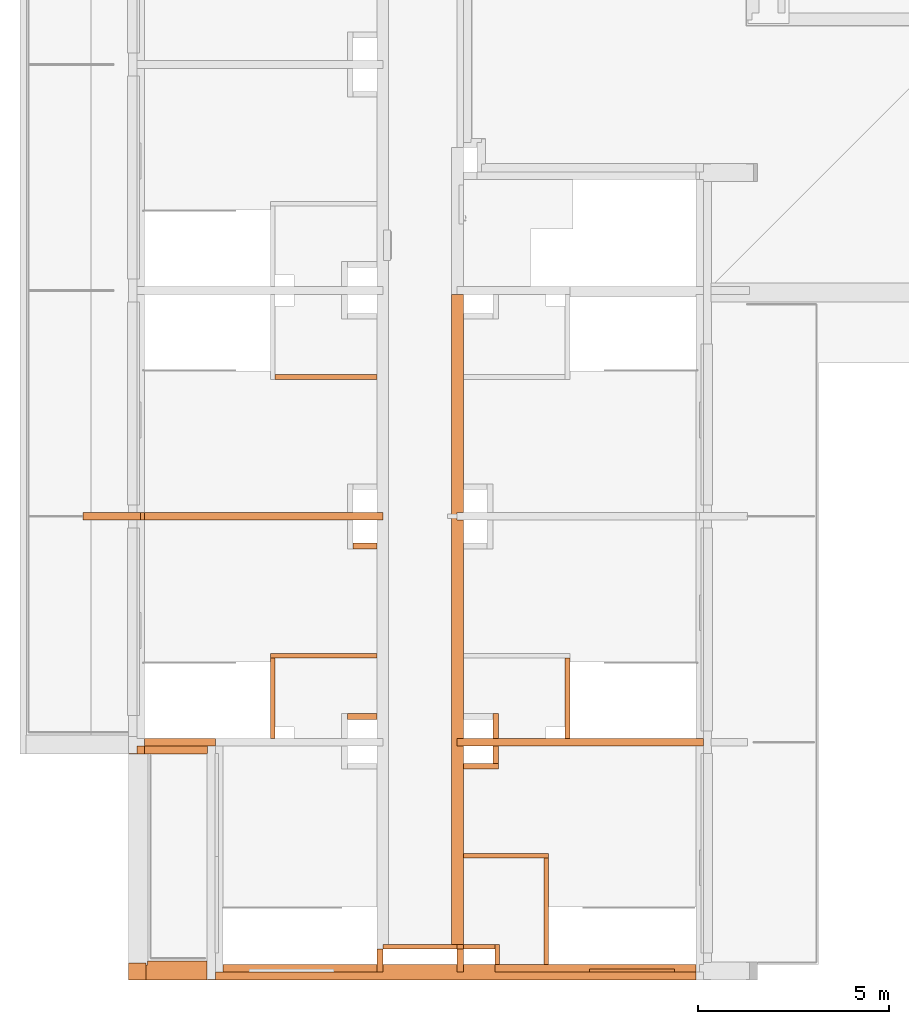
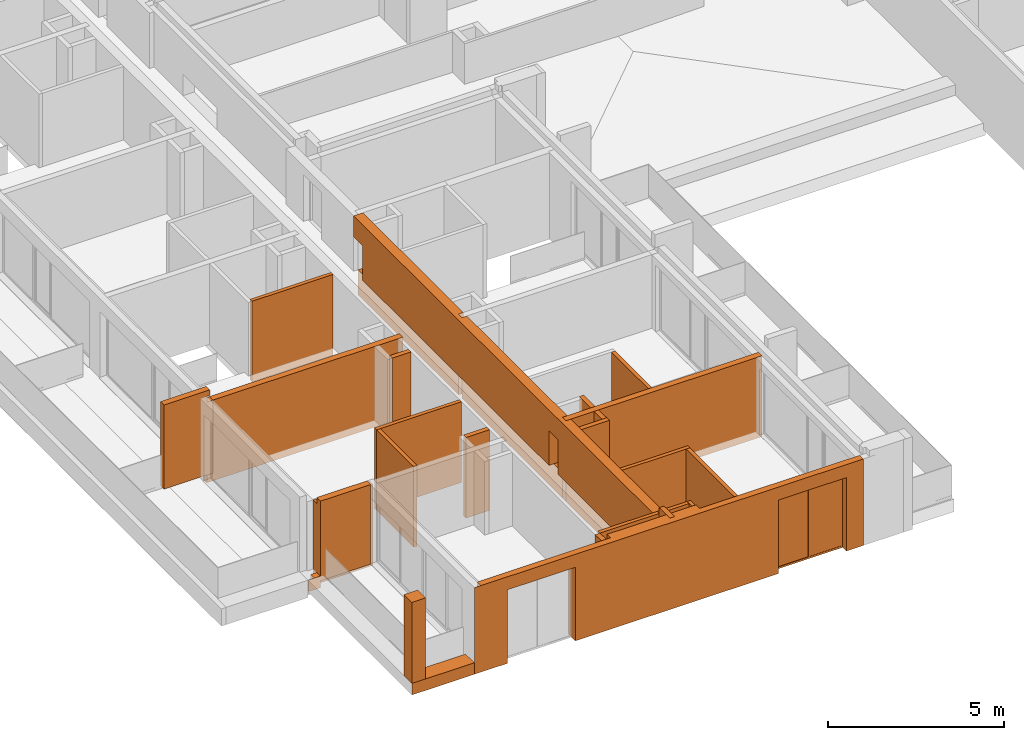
# One storey, part 14 of 30: 24 proxies, 4 openings.
"""IFC2X3 building model written with IfcOpenShell, lengths in millimetres."""

from ifc_helpers import new_model, entity, si_unit, converted_unit, derived_unit, money_unit, direction, frame, origin_with_axes, origin_2d_with_axis, place, context, subcontext, project, spatial, rectangle, extrude, faceted_brep, material, material_list, type_object, element, fill, save


model = new_model("IFC2X3")

# Units and contexts
model_context = context("Model", 3, precision=0.01, world=origin_with_axes(), true_north=direction((0.34421633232, 0.938890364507)))
body_context = subcontext(model_context, "Body", "Model", "MODEL_VIEW")
ifc_project = project(units=[si_unit("LENGTHUNIT", "METRE", prefix="MILLI"), si_unit("AREAUNIT", "SQUARE_METRE"), si_unit("VOLUMEUNIT", "CUBIC_METRE"), converted_unit("PLANEANGLEUNIT", "DEGREE", entity("IfcPlaneAngleMeasure", 0.0174532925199), si_unit("PLANEANGLEUNIT", "RADIAN"), dimensions=[0, 0, 0, 0, 0, 0, 0]), si_unit("SOLIDANGLEUNIT", "STERADIAN"), money_unit("USD"), converted_unit("TIMEUNIT", "Year", entity("IfcTimeMeasure", 31556926.0), si_unit("TIMEUNIT", "SECOND"), dimensions=[0, 0, 1, 0, 0, 0, 0]), si_unit("MASSUNIT", "GRAM", prefix="KILO"), si_unit("THERMODYNAMICTEMPERATUREUNIT", "DEGREE_CELSIUS"), si_unit("LUMINOUSINTENSITYUNIT", "LUMEN"), si_unit("ENERGYUNIT", "JOULE", prefix="MEGA"), derived_unit("THERMALCONDUCTANCEUNIT", [(si_unit("POWERUNIT", "WATT"), 1), (si_unit("LENGTHUNIT", "METRE"), -1), (si_unit("THERMODYNAMICTEMPERATUREUNIT", "KELVIN"), -1)]), derived_unit("SPECIFICHEATCAPACITYUNIT", [(si_unit("ENERGYUNIT", "JOULE"), 1), (si_unit("MASSUNIT", "GRAM", prefix="KILO"), -1), (si_unit("THERMODYNAMICTEMPERATUREUNIT", "KELVIN"), -1)]), derived_unit("MASSDENSITYUNIT", [(si_unit("MASSUNIT", "GRAM", prefix="KILO"), 1), (si_unit("VOLUMEUNIT", "CUBIC_METRE"), -1)])], contexts=[model_context])

# Site, building, storey
site_placement = place(None, origin_with_axes())
site = spatial("IfcSite", under=ifc_project, at=site_placement, Name="USTRONIE MORSKIE", CompositionType="ELEMENT")
building_placement = place(site_placement, origin_with_axes())
building = spatial("IfcBuilding", under=site, at=building_placement, Name="Budynek", CompositionType="ELEMENT")
storey_placement = place(building_placement, frame((0.0, 0.0, 16000.0), z_axis=(0.0, 0.0, 1.0), x_axis=(1.0, 0.0, 0.0)))
storey = spatial("IfcBuildingStorey", under=building, at=storey_placement, Name="ANTRESOLA - KOND. TECHNICZNA", CompositionType="ELEMENT", Elevation=16000.0)

# Proxies
ifc_material_1 = material(Name="Bloczki silikatowe")
building_element_proxy_type_1 = type_object("IfcBuildingElementProxyType", Name="Bloczki silikatowe 120", PredefinedType="NOTDEFINED")
proxy_1_placement = place(storey_placement, frame((359617.920919, 712141.199036, -159.999998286), z_axis=(0.0, 0.0, 1.0), x_axis=(1.0, 0.0, 0.0)))
element("IfcBuildingElementProxy", 1, at=proxy_1_placement, inside=storey, type_object=building_element_proxy_type_1, material=ifc_material_1, Name="SW-04", context=body_context, shape_type="Brep", body=[
    faceted_brep([(2300.0, 59.9999999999, 0.0), (2300.0, -59.9999999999, 0.0), (80.0, -59.9999999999, 0.0), (80.0, 59.9999999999, 0.0), (2300.0, 59.9999999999, 2800.0), (2300.0, -59.9999999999, 2800.0), (80.0, -59.9999999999, 2800.0), (80.0, 59.9999999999, 2800.0)], [[[0, 1, 2, 3]], [[1, 0, 4, 5]], [[1, 5, 6, 2]], [[7, 3, 2, 6]], [[4, 0, 3, 7]], [[5, 4, 7, 6]]]),
])
proxy_2_placement = place(storey_placement, frame((354717.920919, 717361.219701, -159.999998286), z_axis=(0.0, 0.0, 1.0), x_axis=(0.0, -1.0, 0.0)))
element("IfcBuildingElementProxy", 2, at=proxy_2_placement, inside=storey, type_object=building_element_proxy_type_1, material=ifc_material_1, Name="SW-04", context=body_context, shape_type="Brep", body=[
    faceted_brep([(2160.02066499, -60.0, 2800.0), (2160.02066499, 60.0, 2800.0), (59.9999999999, 60.0, 2800.0), (59.9999999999, -60.0, 2800.0), (2160.02066499, -60.0, 0.0), (2160.02066499, 60.0, 0.0), (59.9999999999, 60.0, 0.0), (59.9999999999, -60.0, 0.0)], [[[0, 1, 2, 3]], [[1, 0, 4, 5]], [[1, 5, 6, 2]], [[7, 3, 2, 6]], [[4, 0, 3, 7]], [[5, 4, 7, 6]]]),
])
proxy_3_placement = place(storey_placement, frame((362417.920919, 717361.219701, -159.999998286), z_axis=(0.0, 0.0, 1.0), x_axis=(0.0, -1.0, 0.0)))
element("IfcBuildingElementProxy", 3, at=proxy_3_placement, inside=storey, type_object=building_element_proxy_type_1, material=ifc_material_1, Name="SW-04", context=body_context, shape_type="Brep", body=[
    faceted_brep([(2160.02066499, 60.0, 0.0), (2160.02066499, -60.0, 0.0), (59.9999999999, -60.0, 0.0), (59.9999999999, 60.0, 0.0), (2160.02066499, 60.0, 2800.0), (2160.02066499, -60.0, 2800.0), (59.9999999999, -60.0, 2800.0), (59.9999999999, 60.0, 2800.0)], [[[0, 1, 2, 3]], [[1, 0, 4, 5]], [[1, 5, 6, 2]], [[7, 3, 2, 6]], [[4, 0, 3, 7]], [[5, 4, 7, 6]]]),
])
proxy_4_placement = place(storey_placement, frame((354717.920919, 724641.180542, -159.999998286), z_axis=(0.0, 0.0, 1.0), x_axis=(1.0, 0.0, 0.0)))
element("IfcBuildingElementProxy", 4, at=proxy_4_placement, inside=storey, type_object=building_element_proxy_type_1, material=ifc_material_1, Name="SW-04", context=body_context, shape_type="Brep", body=[
    faceted_brep([(2720.0, 59.9999999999, 0.0), (2720.0, -59.9999999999, 0.0), (60.0, -59.9999999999, 0.0), (60.0, 59.9999999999, 0.0), (2720.0, 59.9999999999, 2799.99999829), (2720.0, -59.9999999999, 2799.99999829), (60.0, -59.9999999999, 2799.99999829), (60.0, 59.9999999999, 2799.99999829)], [[[0, 1, 2, 3]], [[1, 0, 4, 5]], [[1, 5, 6, 2]], [[7, 3, 2, 6]], [[4, 0, 3, 7]], [[5, 4, 7, 6]]]),
])
proxy_5_placement = place(storey_placement, frame((360517.920919, 709701.199036, -160.0), z_axis=(0.0, 0.0, 1.0), x_axis=(-1.0, 0.0, 0.0)))
element("IfcBuildingElementProxy", 5, at=proxy_5_placement, inside=storey, type_object=building_element_proxy_type_1, material=ifc_material_1, Name="SW-04", context=body_context, shape_type="Brep", body=[
    faceted_brep([(2920.0, -120.0, 680.0), (980.018079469, -120.0, 680.0), (980.018079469, -120.0, 880.0), (2920.0, -120.0, 880.0), (2920.0, -120.0, 2800.0), (980.0, -120.0, 2800.0), (980.0, -120.0, 0.0), (2920.0, -120.0, 0.0), (980.018151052, 1.13686837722e-10, 680.0), (2920.0, 1.13686837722e-10, 680.0), (980.018151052, 1.13686837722e-10, 880.0), (2920.0, 1.13686837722e-10, 880.0), (2920.0, 1.13686837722e-10, 2800.0), (980.0, 0.0, 2800.0), (980.0, 0.0, 0.0), (2920.0, 1.13686837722e-10, 0.0)], [[[0, 1, 2, 3, 4, 5, 6, 7]], [[8, 1, 0, 9]], [[10, 2, 1, 8]], [[11, 3, 2, 10]], [[4, 3, 11, 12]], [[4, 12, 13, 5]], [[14, 6, 5, 13]], [[15, 7, 6, 14]], [[15, 9, 0, 7]], [[10, 8, 9, 15, 14, 13, 12, 11]]]),
    faceted_brep([(820.0, -120.0, 0.0), (820.0, -120.0, 2800.0), (0.0, -120.0, 2800.0), (0.0, -120.0, 0.0), (820.0, 0.0, 0.0), (820.0, 0.0, 2800.0), (0.0, 0.0, 2800.0), (0.0, 0.0, 0.0)], [[[0, 1, 2, 3]], [[4, 5, 1, 0]], [[2, 1, 5, 6]], [[7, 3, 2, 6]], [[7, 4, 0, 3]], [[6, 5, 4, 7]]]),
])
proxy_6_placement = place(storey_placement, frame((360517.920919, 709201.199036, -160.0), z_axis=(0.0, 0.0, 1.0), x_axis=(0.0, 1.0, 0.0)))
element("IfcBuildingElementProxy", 6, at=proxy_6_placement, inside=storey, type_object=building_element_proxy_type_1, material=ifc_material_1, Name="SW-04", context=body_context, shape_type="Brep", body=[
    faceted_brep([(620.0, -120.0, 2800.0), (620.0, 0.0, 2800.0), (100.0, 0.0, 2800.0), (100.0, -120.0, 2800.0), (620.0, -120.0, 0.0), (620.0, 0.0, 0.0), (100.0, 0.0, 0.0), (100.0, -120.0, 0.0)], [[[0, 1, 2, 3]], [[1, 0, 4, 5]], [[1, 5, 6, 2]], [[7, 3, 2, 6]], [[4, 0, 3, 7]], [[5, 4, 7, 6]]]),
])
proxy_7_placement = place(storey_placement, frame((361857.920919, 712141.199036, -159.999998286), z_axis=(0.0, 0.0, 1.0), x_axis=(0.0, -1.0, 0.0)))
element("IfcBuildingElementProxy", 7, at=proxy_7_placement, inside=storey, type_object=building_element_proxy_type_1, material=ifc_material_1, Name="SW-04", context=body_context, shape_type="Brep", body=[
    faceted_brep([(2839.99999956, 59.9999999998, 0.0), (2839.99999956, -60.0000000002, 0.0), (59.9999999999, -60.0, 0.0), (59.9999999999, 60.0, 0.0), (2839.99999956, 59.9999999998, 2800.0), (2839.99999956, -60.0000000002, 2800.0), (59.9999999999, -60.0, 2800.0), (59.9999999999, 60.0, 2800.0)], [[[0, 1, 2, 3]], [[1, 0, 4, 5]], [[1, 5, 6, 2]], [[7, 3, 2, 6]], [[4, 0, 3, 7]], [[5, 4, 7, 6]]]),
])
proxy_8_placement = place(storey_placement, frame((354717.920919, 717361.219701, -159.999998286), z_axis=(0.0, 0.0, 1.0), x_axis=(1.0, 0.0, 0.0)))
element("IfcBuildingElementProxy", 8, at=proxy_8_placement, inside=storey, type_object=building_element_proxy_type_1, material=ifc_material_1, Name="SW-04", context=body_context, shape_type="Brep", body=[
    faceted_brep([(2720.0, -59.9999999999, 2800.0), (2720.0, 59.9999999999, 2800.0), (-60.0, 59.9999999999, 2800.0), (-60.0, -59.9999999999, 2800.0), (2720.0, -59.9999999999, 0.0), (2720.0, 59.9999999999, 0.0), (-60.0, 59.9999999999, 0.0), (-60.0, -59.9999999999, 0.0)], [[[0, 1, 2, 3]], [[1, 0, 4, 5]], [[1, 5, 6, 2]], [[7, 3, 2, 6]], [[4, 0, 3, 7]], [[5, 4, 7, 6]]]),
])

# Proxies, openings
ifc_material_2 = material(Name="Tynk zewnętrzny")
ifc_material_3 = material(Name="Wełna ELEW")
ifc_material_4 = material(Name="Beton konstrukcyjny B25")
ifc_material_list_1 = material_list([ifc_material_2, ifc_material_3, ifc_material_4])
building_element_proxy_type_2 = type_object("IfcBuildingElementProxyType", Name="20+20 410", PredefinedType="NOTDEFINED")
proxy_9_placement = place(storey_placement, frame((365867.920919, 709201.199036, -160.0), z_axis=(0.0, 0.0, 1.0), x_axis=(-1.0, 0.0, 0.0)))
proxy_9 = element("IfcBuildingElementProxy", 9, at=proxy_9_placement, inside=storey, type_object=building_element_proxy_type_2, material=ifc_material_list_1, Name="SZ-01", context=body_context, shape_type="Brep", body=[
    faceted_brep([(100.0, 310.0, 3000.0), (100.0, 300.0, 3000.0), (12850.0, 300.0, 3000.0), (12850.0, 310.0, 3000.0), (100.0, 300.0, 0.0), (100.0, 310.0, 0.0), (12850.0, 300.0, 0.0), (12850.0, 310.0, 0.0)], [[[0, 1, 2, 3]], [[4, 1, 0, 5]], [[1, 4, 6, 2]], [[7, 3, 2, 6]], [[5, 0, 3, 7]], [[4, 5, 7, 6]]]),
    faceted_brep([(100.0, 300.0, 3000.0), (100.0, 100.0, 3000.0), (12650.0, 100.0, 3000.0), (12650.0, 300.0, 3000.0), (100.0, 100.0, 0.0), (100.0, 300.0, 0.0), (12650.0, 100.0, 0.0), (12650.0, 300.0, 0.0)], [[[0, 1, 2, 3]], [[4, 1, 0, 5]], [[1, 4, 6, 2]], [[7, 3, 2, 6]], [[5, 0, 3, 7]], [[4, 5, 7, 6]]]),
    faceted_brep([(5350.00158398, -100.0, 3000.0), (5350.00158398, -100.0, 2800.0), (100.0, -100.0, 2800.0), (100.0, -100.0, 0.0), (6170.0, -100.0, 0.0), (6170.0, -100.0, 3000.0), (5350.00158398, 99.9999999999, 3000.0), (5350.00158398, 99.9999999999, 2800.0), (100.0, 99.9999999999, 2800.0), (100.0, 100.0, 0.0), (6170.0, 100.0, 0.0), (6170.0, 100.0, 3000.0)], [[[0, 1, 2, 3, 4, 5]], [[1, 0, 6, 7]], [[8, 2, 1, 7]], [[2, 8, 9, 3]], [[4, 3, 9, 10]], [[4, 10, 11, 5]], [[6, 0, 5, 11]], [[7, 6, 11, 10, 9, 8]]]),
    faceted_brep([(12450.0, -100.0, 2800.0), (8430.0, -100.0, 2800.0), (8430.0, -100.0, 0.0), (12450.0, -100.0, 0.0), (8430.0, 99.9999999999, 2800.0), (12450.0, 99.9999999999, 2800.0), (8430.0, 100.0, 0.0), (12450.0, 100.0, 0.0)], [[[0, 1, 2, 3]], [[4, 1, 0, 5]], [[1, 4, 6, 2]], [[3, 2, 6, 7]], [[5, 0, 3, 7]], [[4, 5, 7, 6]]]),
    faceted_brep([(8270.0, -100.0, 3000.0), (6330.0, -100.0, 3000.0), (6330.0, -100.0, 0.0), (8270.0, -100.0, 0.0), (8270.0, 99.9999999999, 3000.0), (6330.0, 100.0, 3000.0), (6330.0, 100.0, 0.0), (8270.0, 100.0, 0.0), (8270.0, 99.9999999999, 2800.0)], [[[0, 1, 2, 3]], [[0, 4, 5, 1]], [[2, 1, 5, 6]], [[6, 7, 3, 2]], [[8, 4, 0, 3, 7]], [[4, 8, 7, 6, 5]]]),
])
opening_1_placement = place(proxy_9_placement, frame((10659.9848825, 0.0, 0.0), z_axis=(0.0, 0.0, 1.0), x_axis=(1.0, 0.0, 0.0)))
element("IfcOpeningElement", 10, at=opening_1_placement, cuts=proxy_9, Name="Wz.04", context=body_context, shape_type="SweptSolid", body=[
    extrude(rectangle(XDim=2219.96976491, YDim=2550.0, at=origin_2d_with_axis()), frame((0.0, 100.0, 1275.0), z_axis=(0.0, -1.0, 0.0), x_axis=(1.0, 0.0, 0.0)), (0.0, 0.0, -1.0), 620.0),
    extrude(rectangle(XDim=2219.96976491, YDim=2550.0, at=origin_2d_with_axis()), frame((0.0, 100.0, 1275.0), z_axis=(0.0, 1.0, 0.0), x_axis=(1.0, 0.0, 0.0)), (0.0, 0.0, -1.0), 610.0),
])
opening_2_placement = place(proxy_9_placement, frame((1769.93334271, 0.0, 0.0), z_axis=(0.0, 0.0, 1.0), x_axis=(1.0, 0.0, 0.0)))
opening_2 = element("IfcOpeningElement", 11, at=opening_2_placement, cuts=proxy_9, Name="Wz.04", context=body_context, shape_type="SweptSolid", body=[
    extrude(rectangle(XDim=2220.00002235, YDim=2550.0, at=origin_2d_with_axis()), frame((0.0, 100.0, 1275.0), z_axis=(0.0, -1.0, 0.0), x_axis=(1.0, 0.0, 0.0)), (0.0, 0.0, -1.0), 620.0),
    extrude(rectangle(XDim=2220.00002235, YDim=2550.0, at=origin_2d_with_axis()), frame((0.0, 100.0, 1275.0), z_axis=(0.0, 1.0, 0.0), x_axis=(1.0, 0.0, 0.0)), (0.0, 0.0, -1.0), 610.0),
])
building_element_proxy_type_3 = type_object("IfcBuildingElementProxyType", Name="Witryna sklepowa 23", PredefinedType="NOTDEFINED")
proxy_10_placement = place(opening_2_placement, frame((-1110.00001118, 0.0, 0.0), z_axis=(0.0, 0.0, 1.0), x_axis=(1.0, 0.0, 0.0)))
proxy_10 = element("IfcBuildingElementProxy", 12, at=proxy_10_placement, inside=storey, type_object=building_element_proxy_type_3, Name="Wz.04", context=body_context, shape_type="Brep", body=[
    faceted_brep([(0.0, 100.0, 2510.0), (0.0, 100.0, 65.0), (0.0, 20.0, 65.0), (0.0, 20.0, 2510.0), (40.0, 100.0, 2510.0), (40.0, 100.0, 65.0), (40.0, 20.0, 65.0), (40.0, 20.0, 2510.0)], [[[0, 1, 2, 3]], [[0, 4, 5, 1]], [[1, 5, 6, 2]], [[3, 2, 6, 7]], [[4, 0, 3, 7]], [[5, 4, 7, 6]]]),
    faceted_brep([(2220.00002235, 100.0, 65.0), (2220.00002235, 100.0, 2510.0), (2220.00002235, 20.0, 2510.0), (2220.00002235, 20.0, 65.0), (2180.00002235, 100.0, 65.0), (2180.00002235, 100.0, 2510.0), (2180.00002235, 20.0, 2510.0), (2180.00002235, 20.0, 65.0)], [[[0, 1, 2, 3]], [[0, 4, 5, 1]], [[1, 5, 6, 2]], [[3, 2, 6, 7]], [[4, 0, 3, 7]], [[5, 4, 7, 6]]]),
    faceted_brep([(2220.00002235, 100.0, 2550.0), (0.0, 100.0, 2550.0), (0.0, 20.0, 2550.0), (2220.00002235, 20.0, 2550.0), (2220.00002235, 100.0, 2510.0), (2180.00002235, 100.0, 2510.0), (40.0, 100.0, 2510.0), (0.0, 100.0, 2510.0), (0.0, 20.0, 2510.0), (40.0, 20.0, 2510.0), (2180.00002235, 20.0, 2510.0), (2220.00002235, 20.0, 2510.0)], [[[0, 1, 2, 3]], [[0, 4, 5, 6, 7, 1]], [[1, 7, 8, 2]], [[3, 2, 8, 9, 10, 11]], [[4, 0, 3, 11]], [[5, 4, 11, 10]], [[6, 5, 10, 9]], [[7, 6, 9, 8]]]),
    faceted_brep([(2220.00002235, 100.0, 65.0), (2180.00002235, 100.0, 65.0), (2180.00002235, 20.0, 65.0), (2220.00002235, 20.0, 65.0), (2220.00002235, 100.0, 0.0), (0.0, 100.0, 0.0), (0.0, 100.0, 65.0), (40.0, 100.0, 65.0), (40.0, 20.0, 65.0), (0.0, 20.0, 65.0), (0.0, 20.0, 0.0), (2220.00002235, 20.0, 0.0)], [[[0, 1, 2, 3]], [[0, 4, 5, 6, 7, 1]], [[1, 7, 8, 2]], [[3, 2, 8, 9, 10, 11]], [[4, 0, 3, 11]], [[5, 4, 11, 10]], [[6, 5, 10, 9]], [[7, 6, 9, 8]]]),
    faceted_brep([(1095.00001118, 50.0000000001, 65.0), (1095.00001118, 100.0, 65.0), (1125.00001118, 100.0, 65.0), (1125.00001118, 50.0000000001, 65.0), (1095.00001118, 50.0000000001, 2510.0), (1095.00001118, 100.0, 2510.0), (1125.00001118, 100.0, 2510.0), (1125.00001118, 50.0000000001, 2510.0)], [[[0, 1, 2, 3]], [[4, 5, 1, 0]], [[2, 1, 5, 6]], [[3, 2, 6, 7]], [[4, 0, 3, 7]], [[7, 6, 5, 4]]]),
    faceted_brep([(40.0, 90.0, 65.0), (1095.00001118, 90.0, 65.0), (1095.00001118, 80.0, 65.0), (40.0, 80.0, 65.0), (40.0, 90.0, 2510.0), (1095.00001118, 90.0, 2510.0), (1095.00001118, 80.0, 2510.0), (40.0, 80.0, 2510.0)], [[[0, 1, 2, 3]], [[0, 4, 5, 1]], [[1, 5, 6, 2]], [[3, 2, 6, 7]], [[4, 0, 3, 7]], [[5, 4, 7, 6]]]),
    faceted_brep([(1125.00001118, 90.0, 65.0), (2180.00002235, 90.0, 65.0), (2180.00002235, 80.0, 65.0), (1125.00001118, 80.0, 65.0), (1125.00001118, 90.0, 2510.0), (2180.00002235, 90.0, 2510.0), (2180.00002235, 80.0, 2510.0), (1125.00001118, 80.0, 2510.0)], [[[0, 1, 2, 3]], [[0, 4, 5, 1]], [[1, 5, 6, 2]], [[3, 2, 6, 7]], [[4, 0, 3, 7]], [[5, 4, 7, 6]]]),
])
fill(opening_2, proxy_10)

# Proxies
ifc_material_list_2 = material_list([ifc_material_4, ifc_material_3, ifc_material_2])
proxy_11_placement = place(storey_placement, frame((351267.920919, 715101.199036, -160.0), z_axis=(0.0, 0.0, 1.0), x_axis=(1.0, 0.0, 0.0)))
element("IfcBuildingElementProxy", 13, at=proxy_11_placement, inside=storey, type_object=building_element_proxy_type_2, material=ifc_material_list_2, Name="SZ-01", context=body_context, shape_type="Brep", body=[
    faceted_brep([(100.000016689, 99.9999999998, 2800.0), (1950.0, 100.0, 2800.0), (1950.0, 100.0, 0.0), (100.0, 100.0, 0.0), (1950.0, -100.0, 2800.0), (100.000016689, -100.0, 2800.0), (1950.0, -100.0, 0.0), (100.0, -100.0, 0.0)], [[[0, 1, 2, 3]], [[4, 1, 0, 5]], [[1, 4, 6, 2]], [[3, 2, 6, 7]], [[5, 0, 3, 7]], [[4, 5, 7, 6]]]),
    faceted_brep([(1750.0, -300.0, 239.99999792), (1750.0, -99.9999999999, 239.99999792), (1750.0, -100.0, 3000.0), (1750.0, -300.0, 3000.0), (99.9999999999, -99.9999999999, 239.99999792), (100.0, -300.0, 239.99999792), (99.9999999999, -99.9999999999, -2.07957562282e-06), (-100.0, -100.0, 0.0), (-100.0, -100.0, 400.0), (100.000017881, -100.0, 400.0), (100.000017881, -100.0, 3000.0), (100.000017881, -300.0, 3000.0), (100.000017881, -300.0, 400.0), (-100.0, -300.0, 400.0), (-100.0, -300.0, 0.0), (100.0, -300.0, -2.07957562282e-06)], [[[0, 1, 2, 3]], [[4, 1, 0, 5]], [[4, 6, 7, 8, 9, 10, 2, 1]], [[11, 3, 2, 10]], [[5, 0, 3, 11, 12, 13, 14, 15]], [[4, 5, 15, 6]], [[6, 15, 14, 7]], [[14, 13, 8, 7]], [[12, 9, 8, 13]], [[12, 11, 10, 9]]]),
    faceted_brep([(1740.0, -310.0, 239.99999792), (1740.0, -300.0, 239.99999792), (1740.0, -300.0, 3000.0), (1740.0, -310.0, 3000.0), (100.0, -300.0, 239.99999792), (100.0, -310.0, 239.99999792), (100.0, -300.0, -2.07957562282e-06), (-300.0, -300.0, 0.0), (-300.0, -300.0, 400.0), (100.000017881, -300.0, 400.0), (100.000017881, -300.0, 3000.0), (100.000017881, -310.0, 3000.0), (100.000017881, -310.0, 400.0), (-300.0, -310.0, 400.0), (-300.0, -310.0, 0.0), (100.0, -310.0, -2.07957562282e-06)], [[[0, 1, 2, 3]], [[4, 1, 0, 5]], [[4, 6, 7, 8, 9, 10, 2, 1]], [[11, 3, 2, 10]], [[5, 0, 3, 11, 12, 13, 14, 15]], [[4, 5, 15, 6]], [[6, 15, 14, 7]], [[14, 13, 8, 7]], [[12, 9, 8, 13]], [[12, 11, 10, 9]]]),
])
building_element_proxy_type_4 = type_object("IfcBuildingElementProxyType", Name="Bloczki silikatowe 150", PredefinedType="NOTDEFINED")
proxy_12_placement = place(storey_placement, frame((356592.920018, 715776.193419, -160.0), z_axis=(0.0, 0.0, 1.0), x_axis=(1.0, 0.0, 0.0)))
element("IfcBuildingElementProxy", 14, at=proxy_12_placement, inside=storey, type_object=building_element_proxy_type_4, material=ifc_material_1, Name="SW-03", context=body_context, shape_type="Brep", body=[
    faceted_brep([(845.00090117, 75.0, 0.0), (845.00090117, -75.0, 0.0), (75.0, -75.0, 0.0), (75.0, 75.0, 0.0), (845.00090117, 75.0, 2800.0), (845.00090117, -75.0, 2800.0), (75.0, -75.0, 2800.0), (75.0, 75.0, 2800.0)], [[[0, 1, 2, 3]], [[1, 0, 4, 5]], [[1, 5, 6, 2]], [[7, 3, 2, 6]], [[4, 0, 3, 7]], [[5, 4, 7, 6]]]),
])
proxy_13_placement = place(storey_placement, frame((360542.92182, 715101.192539, -160.0), z_axis=(0.0, 0.0, 1.0), x_axis=(0.0, 1.0, 0.0)))
element("IfcBuildingElementProxy", 15, at=proxy_13_placement, inside=storey, type_object=building_element_proxy_type_4, material=ifc_material_1, Name="SW-03", context=body_context, shape_type="Brep", body=[
    faceted_brep([(750.000879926, -75.0, 2800.0), (750.000879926, 75.0, 2800.0), (100.006496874, 75.0, 2800.0), (100.006496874, -75.0, 2800.0), (750.000879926, -75.0, 0.0), (750.000879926, 75.0, 0.0), (100.006496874, 75.0, 0.0), (100.006496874, -75.0, 0.0)], [[[0, 1, 2, 3]], [[1, 0, 4, 5]], [[1, 5, 6, 2]], [[7, 3, 2, 6]], [[4, 0, 3, 7]], [[5, 4, 7, 6]]]),
])
proxy_14_placement = place(storey_placement, frame((359617.920919, 714551.197058, 0.0), z_axis=(0.0, 0.0, 1.0), x_axis=(1.0, 0.0, 0.0)))
element("IfcBuildingElementProxy", 16, at=proxy_14_placement, inside=storey, type_object=building_element_proxy_type_4, material=ifc_material_1, Name="SW-03", context=body_context, shape_type="Brep", body=[
    faceted_brep([(80.0000000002, 0.0, 0.0), (80.0000000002, 0.0, 2640.0), (1000.00090117, 0.0, 2640.0), (1000.00090117, 0.0, 0.0), (80.0000000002, -150.0, 0.0), (80.0000000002, -150.0, 2640.0), (1000.00090117, -150.0, 2640.0), (1000.00090117, -150.0, 0.0)], [[[0, 1, 2, 3]], [[4, 5, 1, 0]], [[5, 6, 2, 1]], [[3, 2, 6, 7]], [[0, 3, 7, 4]], [[7, 6, 5, 4]]]),
])
proxy_15_placement = place(storey_placement, frame((356817.920919, 720301.214417, -160.0), z_axis=(0.0, 0.0, 1.0), x_axis=(1.0, 0.0, 0.0)))
element("IfcBuildingElementProxy", 17, at=proxy_15_placement, inside=storey, type_object=building_element_proxy_type_4, material=ifc_material_1, Name="SW-03", context=body_context, shape_type="Brep", body=[
    faceted_brep([(620.0, -150.0, 2800.0), (620.0, 0.0, 2800.0), (0.0, 0.0, 2800.0), (0.0, -150.0, 2800.0), (620.0, -150.0, 0.0), (620.0, 0.0, 0.0), (0.0, 0.0, 0.0), (0.0, -150.0, 0.0)], [[[0, 1, 2, 3]], [[1, 0, 4, 5]], [[1, 5, 6, 2]], [[7, 3, 2, 6]], [[4, 0, 3, 7]], [[5, 4, 7, 6]]]),
])
proxy_16_placement = place(storey_placement, frame((360467.92182, 714551.197058, 0.0), z_axis=(0.0, 0.0, 1.0), x_axis=(0.0, 1.0, 0.0)))
element("IfcBuildingElementProxy", 18, at=proxy_16_placement, inside=storey, type_object=building_element_proxy_type_4, material=ifc_material_1, Name="SW-03", context=body_context, shape_type="Brep", body=[
    faceted_brep([(450.001977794, 0.0, 0.0), (450.001977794, 0.0, 2640.0), (450.001977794, -150.0, 2640.0), (450.001977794, -150.0, 0.0), (0.0, 0.0, 0.0), (0.0, 0.0, 2640.0), (0.0, -150.0, 2640.0), (0.0, -150.0, 0.0)], [[[0, 1, 2, 3]], [[4, 5, 1, 0]], [[5, 6, 2, 1]], [[3, 2, 6, 7]], [[7, 4, 0, 3]], [[7, 6, 5, 4]]]),
])
building_element_proxy_type_5 = type_object("IfcBuildingElementProxyType", Name="Beton konstrukcyjny B25 200", PredefinedType="NOTDEFINED")
proxy_17_placement = place(storey_placement, frame((357517.920919, 721001.213775, -160.0), z_axis=(0.0, 0.0, 1.0), x_axis=(-1.0, -9.20992206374e-07, 0.0)))
element("IfcBuildingElementProxy", 19, at=proxy_17_placement, inside=storey, type_object=building_element_proxy_type_5, material=ifc_material_4, Name="SW-01", context=body_context, shape_type="Brep", body=[
    faceted_brep([(6149.9999079, -99.9999079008, 2800.0), (6150.0000921, 100.000092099, 2800.0), (-79.9999079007, 100.000002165, 2800.0), (-80.0000920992, -99.9999978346, 2800.0), (6149.99991282, -99.9999079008, 270.0), (6150.00009702, 100.000092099, 270.0), (6350.0000921, 99.9999999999, 0.0), (-79.9999079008, 99.9999999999, 0.0), (6350.0000921, 99.9999079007, 270.0), (-80.0000920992, -100.0, 0.0), (6349.9999079, -100.0, 0.0), (6349.9999079, -100.000092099, 270.0)], [[[0, 1, 2, 3]], [[4, 5, 1, 0]], [[6, 7, 2, 1, 5, 8]], [[7, 9, 3, 2]], [[4, 0, 3, 9, 10, 11]], [[8, 5, 4, 11]], [[9, 7, 6, 10]], [[10, 6, 8, 11]]]),
])
proxy_18_placement = place(storey_placement, frame((349767.920919, 721001.208019, 110.0), z_axis=(0.0, 0.0, 1.0), x_axis=(1.0, 0.0, 0.0)))
element("IfcBuildingElementProxy", 20, at=proxy_18_placement, inside=storey, type_object=building_element_proxy_type_5, material=ifc_material_4, Name="SW-01", context=body_context, shape_type="Brep", body=[
    faceted_brep([(1400.0, 100.0, 2530.0), (1580.0, 100.0, 2530.0), (1600.0, 100.0, 2530.0), (1599.99999508, 100.0, 0.0), (0.0, 100.0, 0.0), (0.0, 100.0, 2920.0), (1500.0, 100.0, 2920.0), (1500.0, 100.0, 2730.0), (1400.0, 100.0, 2730.0), (1400.0, -100.0, 2530.0), (1580.0, -100.0, 2530.0), (1600.0, -100.0, 2530.0), (1599.99999508, -100.0, 0.0), (0.0, -100.0, 0.0), (0.0, -100.0, 2920.0), (1500.0, -100.0, 2920.0), (1500.0, -100.0, 2730.0), (1400.0, -100.0, 2730.0)], [[[0, 1, 2, 3, 4, 5, 6, 7, 8]], [[9, 10, 11, 2, 1, 0]], [[3, 2, 11, 12]], [[12, 13, 4, 3]], [[4, 13, 14, 5]], [[6, 5, 14, 15]], [[15, 16, 7, 6]], [[17, 8, 7, 16]], [[9, 0, 8, 17]], [[12, 11, 10, 9, 17, 16, 15, 14, 13]]]),
])
proxy_19_placement = place(storey_placement, frame((365867.920919, 715101.199036, -160.0), z_axis=(0.0, 0.0, 1.0), x_axis=(-1.0, 0.0, 0.0)))
element("IfcBuildingElementProxy", 21, at=proxy_19_placement, inside=storey, type_object=building_element_proxy_type_5, material=ifc_material_4, Name="SW-01", context=body_context, shape_type="Brep", body=[
    faceted_brep([(-100.0, -100.0, 2800.0), (6330.0, -100.0, 2800.0), (6330.0, 100.0, 2800.0), (-100.0, 100.0, 2800.0), (-100.0, -100.0, 0.0), (6330.0, -100.0, 0.0), (6330.0, 100.0, 0.0), (-100.0, 100.0, 0.0)], [[[0, 1, 2, 3]], [[4, 5, 1, 0]], [[6, 2, 1, 5]], [[3, 2, 6, 7]], [[7, 4, 0, 3]], [[7, 6, 5, 4]]]),
])
building_element_proxy_type_6 = type_object("IfcBuildingElementProxyType", Name="Beton konstrukcyjny B25 160", PredefinedType="NOTDEFINED")
proxy_20_placement = place(storey_placement, frame((357517.920919, 709701.199036, -160.0), z_axis=(0.0, 0.0, 1.0), x_axis=(0.0, -1.0, 0.0)))
element("IfcBuildingElementProxy", 22, at=proxy_20_placement, inside=storey, type_object=building_element_proxy_type_6, material=ifc_material_4, Name="SW-01", context=body_context, shape_type="Brep", body=[
    faceted_brep([(600.0, 80.0, 2800.0), (0.0, 80.0, 2800.0), (0.0, -80.0, 2800.0), (600.0, -80.0, 2800.0), (600.0, 80.0, 0.0), (0.0, 80.0, 0.0), (0.0, -80.0, 0.0), (600.0, -80.0, 0.0)], [[[0, 1, 2, 3]], [[4, 5, 1, 0]], [[1, 5, 6, 2]], [[3, 2, 6, 7]], [[7, 4, 0, 3]], [[7, 6, 5, 4]]]),
])
proxy_21_placement = place(storey_placement, frame((359617.920919, 709701.199036, -160.0), z_axis=(0.0, 0.0, 1.0), x_axis=(0.0, -1.0, 0.0)))
element("IfcBuildingElementProxy", 23, at=proxy_21_placement, inside=storey, type_object=building_element_proxy_type_6, material=ifc_material_4, Name="SW-01", context=body_context, shape_type="Brep", body=[
    faceted_brep([(600.0, 80.0, 3000.0), (600.0, 80.0, 0.0), (-120.0, 80.0, 0.0), (-120.0, 80.0, 680.0), (-120.0, 80.0, 2800.0), (0.0, 80.0, 2800.0), (0.0, 80.0, 3000.0), (600.0, -80.0, 3000.0), (600.0, -80.0, 0.0), (-120.0, -80.0, 0.0), (-120.0, -80.0, 680.0), (-120.0, -80.0, 2800.0), (0.0, -80.0, 2800.0), (0.0, -80.0, 3000.0)], [[[0, 1, 2, 3, 4, 5, 6]], [[7, 8, 1, 0]], [[2, 1, 8, 9]], [[3, 2, 9, 10]], [[4, 3, 10, 11]], [[11, 12, 5, 4]], [[6, 5, 12, 13]], [[13, 7, 0, 6]], [[7, 13, 12, 11, 10, 9, 8]]]),
])

# Proxy, openings
ifc_material_5 = material(Name="Izolacja akustyczna")
ifc_material_list_3 = material_list([ifc_material_4, ifc_material_5])
building_element_proxy_type_7 = type_object("IfcBuildingElementProxyType", Name="16+15 AKU 310", PredefinedType="NOTDEFINED")
proxy_22_placement = place(storey_placement, frame((359617.920919, 726901.199036, -160.0), z_axis=(0.0, 0.0, 1.0), x_axis=(0.0, -1.0, 0.0)))
proxy_22 = element("IfcBuildingElementProxy", 24, at=proxy_22_placement, inside=storey, type_object=building_element_proxy_type_7, material=ifc_material_list_3, Name="Œciana-007", context=body_context, shape_type="Brep", body=[
    faceted_brep([(11900.0, -80.0, 2800.0), (17080.0, -80.0, 2800.0), (17080.0, 80.0, 2800.0), (11900.0, 80.0, 2800.0), (17080.0, -80.0, 0.0), (11900.0, -79.9999999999, 0.0), (17080.0, 80.0, 0.0), (11900.0, 80.0, 0.0)], [[[0, 1, 2, 3]], [[4, 1, 0, 5]], [[6, 2, 1, 4]], [[3, 2, 6, 7]], [[7, 5, 0, 3]], [[5, 7, 6, 4]]]),
    faceted_brep([(5999.98340066, -79.9999999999, 0.0), (5999.98340066, -80.0, 2800.0), (5999.9832533, 80.0, 2800.0), (5999.9832533, 80.0, 0.0), (11700.0, -80.0, 2800.0), (11700.0, -79.9999999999, 0.0), (11700.0, 80.0, 2800.0), (11700.0, 80.0, 0.0)], [[[0, 1, 2, 3]], [[4, 1, 0, 5]], [[6, 2, 1, 4]], [[3, 2, 6, 7]], [[0, 3, 7, 5]], [[5, 7, 6, 4]]]),
    faceted_brep([(100.0, -80.0, 2800.0), (5799.98340066, -80.0, 2800.0), (5799.9832533, 80.0, 2800.0), (100.0, 80.0, 2800.0), (5799.98340066, -79.9999999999, 0.0), (100.0, -80.0, 0.0), (5799.9832533, 80.0, 0.0), (100.0, 80.0, 0.0)], [[[0, 1, 2, 3]], [[4, 1, 0, 5]], [[6, 2, 1, 4]], [[3, 2, 6, 7]], [[3, 7, 5, 0]], [[6, 4, 5, 7]]]),
    faceted_brep([(17080.0, -80.0180649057, 880.0), (100.0, -80.0, 2800.0), (17080.0, -80.0, 2800.0), (99.9999999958, -80.0058751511, 880.0), (17080.0, -230.0, 2800.0), (100.0, -230.0, 2800.0), (17080.0, -230.0, 880.0), (100.0, -230.0, 880.0)], [[[0, 1, 2]], [[1, 0, 3]], [[4, 2, 1, 5]], [[2, 4, 6, 0]], [[0, 6, 7, 3]], [[5, 1, 3, 7]], [[4, 5, 7, 6]]]),
])
opening_3_placement = place(proxy_22_placement, frame((11449.9980222, 0.0, 880.0), z_axis=(0.0, 0.0, 1.0), x_axis=(1.0, 0.0, 0.0)))
element("IfcOpeningElement", 25, at=opening_3_placement, cuts=proxy_22, Name="R.01", context=body_context, shape_type="SweptSolid", body=[
    extrude(rectangle(XDim=500.0, YDim=1200.0, at=origin_2d_with_axis()), frame((0.0, -80.0, 600.0), z_axis=(0.0, 1.0, 0.0), x_axis=(1.0, 0.0, 0.0)), (0.0, 0.0, -1.0), 460.0),
    extrude(rectangle(XDim=500.0, YDim=1200.0, at=origin_2d_with_axis()), frame((0.0, -80.0, 600.0), z_axis=(0.0, -1.0, 0.0), x_axis=(1.0, 0.0, 0.0)), (0.0, 0.0, -1.0), 460.0),
])
opening_4_placement = place(proxy_22_placement, frame((350.0, 0.0, 880.0), z_axis=(0.0, 0.0, 1.0), x_axis=(1.0, 0.0, 0.0)))
element("IfcOpeningElement", 26, at=opening_4_placement, cuts=proxy_22, Name="R.01", context=body_context, shape_type="SweptSolid", body=[
    extrude(rectangle(XDim=500.0, YDim=1200.0, at=origin_2d_with_axis()), frame((0.0, -80.0, 600.0), z_axis=(0.0, 1.0, 0.0), x_axis=(1.0, 0.0, 0.0)), (0.0, 0.0, -1.0), 460.0),
    extrude(rectangle(XDim=500.0, YDim=1200.0, at=origin_2d_with_axis()), frame((0.0, -80.0, 600.0), z_axis=(0.0, -1.0, 0.0), x_axis=(1.0, 0.0, 0.0)), (0.0, 0.0, -1.0), 460.0),
])

# Proxies
ifc_material_list_4 = material_list([ifc_material_2, ifc_material_3, ifc_material_1, ifc_material_3, ifc_material_2])
building_element_proxy_type_8 = type_object("IfcBuildingElementProxyType", Name="18 SILIKAT+20-10 500", PredefinedType="NOTDEFINED")
proxy_23_placement = place(storey_placement, frame((353007.920919, 709191.199036, -160.0), z_axis=(0.0, 0.0, 1.0), x_axis=(-1.0, 0.0, 0.0)))
element("IfcBuildingElementProxy", 27, at=proxy_23_placement, inside=storey, type_object=building_element_proxy_type_8, material=ifc_material_list_4, Name="Œciana-006", context=body_context, shape_type="Brep", body=[
    faceted_brep([(2040.0, 300.0, 400.0), (0.0, 300.0, 400.0), (0.0, 290.0, 400.0), (2040.0, 290.0, 400.0), (2040.0, 300.0, 0.0), (0.0, 300.0, 0.0), (0.0, 290.0, 0.0), (2040.0, 290.0, 0.0)], [[[0, 1, 2, 3]], [[4, 5, 1, 0]], [[2, 1, 5, 6]], [[3, 2, 6, 7]], [[3, 7, 4, 0]], [[7, 6, 5, 4]]]),
    faceted_brep([(1840.0, 290.0, 400.0), (0.0, 290.0, 400.0), (0.0, 90.0, 400.0), (1840.0, 90.0, 400.0), (1840.0, 290.0, 0.0), (0.0, 290.0, 0.0), (0.0, 90.0, 0.0), (1840.0, 90.0, 0.0)], [[[0, 1, 2, 3]], [[4, 5, 1, 0]], [[2, 1, 5, 6]], [[3, 2, 6, 7]], [[3, 7, 4, 0]], [[7, 6, 5, 4]]]),
    faceted_brep([(1660.0, 90.0, 400.0), (0.0, 90.0, 400.0), (0.0, -90.0, 400.0), (1660.0, -90.0, 400.0), (1660.0, 90.0, 0.0), (0.0, 90.0, 0.0), (0.0, -90.0, 0.0), (1660.0, -90.0, 0.0)], [[[0, 1, 2, 3]], [[4, 5, 1, 0]], [[2, 1, 5, 6]], [[3, 2, 6, 7]], [[3, 7, 4, 0]], [[7, 6, 5, 4]]]),
    faceted_brep([(0.0, -110.0, 239.99999792), (0.0, -190.0, 239.99999792), (0.0, -190.0, 400.0), (0.0, -90.0, 400.0), (0.0, -90.0, 0.0), (0.0, -110.0, -2.07957739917e-06), (1560.0, -190.0, 239.99999792), (1560.0, -110.0, 239.99999792), (1560.0, -190.0, 400.0), (1560.0, -90.0, 400.0), (1560.0, -90.0, 0.0), (1560.0, -110.0, -2.07957739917e-06)], [[[0, 1, 2, 3, 4, 5]], [[6, 1, 0, 7]], [[1, 6, 8, 2]], [[8, 9, 3, 2]], [[9, 10, 4, 3]], [[11, 5, 4, 10]], [[7, 0, 5, 11]], [[7, 11, 10, 9, 8, 6]]]),
    faceted_brep([(0.0, -190.0, 239.99999792), (0.0, -200.0, 239.99999792), (0.0, -200.0, 400.0), (0.0, -190.0, 400.0), (1550.0, -200.0, 239.99999792), (1550.0, -190.0, 239.99999792), (1550.0, -200.0, 400.0), (1550.0, -190.0, 400.0)], [[[0, 1, 2, 3]], [[4, 1, 0, 5]], [[1, 4, 6, 2]], [[6, 7, 3, 2]], [[5, 0, 3, 7]], [[4, 5, 7, 6]]]),
])
building_element_proxy_type_9 = type_object("IfcBuildingElementProxyType", Name="Beton konstrukcyjny B25 450", PredefinedType="NOTDEFINED")
proxy_24_placement = place(storey_placement, frame((351407.920919, 709116.199036, 240.0), z_axis=(0.0, 0.0, 1.0), x_axis=(-1.0, 0.0, 0.0)))
element("IfcBuildingElementProxy", 28, at=proxy_24_placement, inside=storey, type_object=building_element_proxy_type_9, material=ifc_material_4, Name="Œciana-007", context=body_context, shape_type="Brep", body=[
    faceted_brep([(0.0, 225.0, 2810.0), (0.0, -225.0, 2810.0), (450.000038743, -225.0, 2810.0), (450.000038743, 225.0, 2810.0), (0.0, 225.0, 0.0), (0.0, -225.0, 0.0), (450.000038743, -225.0, 0.0), (450.000038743, 225.0, 0.0)], [[[0, 1, 2, 3]], [[4, 5, 1, 0]], [[1, 5, 6, 2]], [[7, 3, 2, 6]], [[4, 0, 3, 7]], [[5, 4, 7, 6]]]),
])

save(model, "model.ifc")
